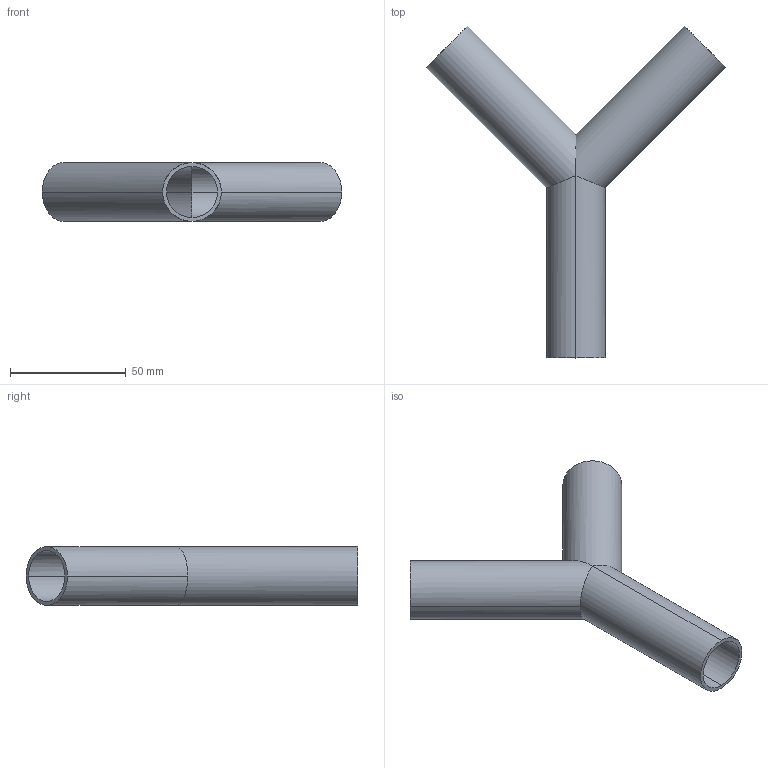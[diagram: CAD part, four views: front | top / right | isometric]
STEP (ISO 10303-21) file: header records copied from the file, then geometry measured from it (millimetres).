
FILE_DESCRIPTION (( 'STEP AP214' ), '1' );
FILE_NAME ('TEG28B6L1.0-...STEP', '2016-05-25T04:41:13', ( 'eran' ), ( '' ), 'SwSTEP 2.0', 'SolidWorks 2016', '' );
FILE_SCHEMA (( 'AUTOMOTIVE_DESIGN' ));
Length unit declared in the file: millimetre
Products named in the file (1): TEG28B6L1.0-..
Bounding box: 129.54 x 143.67 x 25.4 mm (x, y, z)
Volume: 27436 mm3; surface area: 33618.4 mm2
Topology: 1 solids, 1 shells, 15 faces, 36 edges, 22 vertices
Faces by surface type: cylinder 12, plane 3
Entity records: 476 total; most frequent: CARTESIAN_POINT 110, ORIENTED_EDGE 72, DIRECTION 68, EDGE_CURVE 36, AXIS2_PLACEMENT_3D 28, VERTEX_POINT 22, EDGE_LOOP 18, ADVANCED_FACE 15
